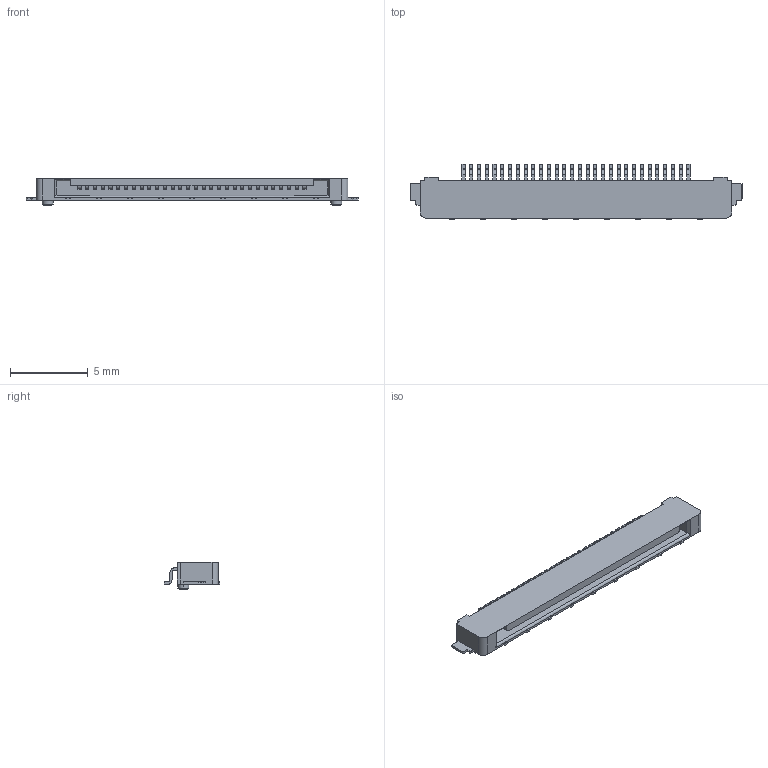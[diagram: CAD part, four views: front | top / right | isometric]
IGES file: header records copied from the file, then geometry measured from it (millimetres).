
Start section: Elysium IGES Interface
Global section: file name: C:\Users\1088\Desktop\SSL01-XXL3\SSL01-30L3_IG.igs; native system: Creo Elements/Direct Modeling 19.0F  14-Feb-2017; preprocessor: Creo Element/Direct IGES_3D V2.2; author: Unknown; organization: Unknown; date: 20170804.144803; units: millimetre
Bounding box: 21.4 x 3.58 x 1.75 mm (x, y, z)
Volume: 53.4 mm3; surface area: 278.2 mm2
Topology: 1 solids, 1 shells, 744 faces, 2211 edges, 1472 vertices
Faces by surface type: bspline 744
